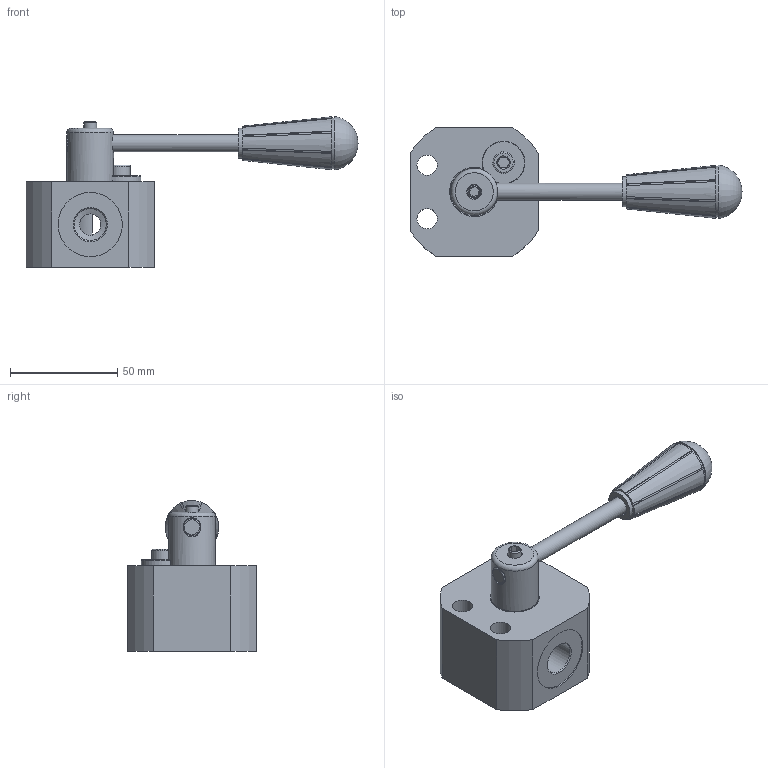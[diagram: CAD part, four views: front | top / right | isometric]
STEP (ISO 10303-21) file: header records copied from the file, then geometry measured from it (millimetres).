
FILE_DESCRIPTION(/* description */ ('Unknown'),/* implementation_level */ '2;1');
FILE_NAME(/* name */ 'DEVAP3V38CA',/* time_stamp */ '2024-12-05T10:41:51+01:00',/* author */ ('Unknown'),/* organization */ ('Unknown'),/* preprocessor_version */ 'ST-DEVELOPER v19.4',/* originating_system */ 'Solid Edge',/* authorisation */ 'Unknown');
FILE_SCHEMA (('AUTOMOTIVE_DESIGN {1 0 10303 214 3 1 1}'));
Length unit declared in the file: millimetre
Products named in the file (1): DEVAP3V38CA
Bounding box: 155.1 x 60 x 70.45 mm (x, y, z)
Volume: 147652.5 mm3; surface area: 28812.3 mm2
Topology: 1 solids, 1 shells, 135 faces, 332 edges, 214 vertices
Faces by surface type: plane 71, cylinder 33, cone 24, torus 7
Full cylindrical faces by diameter (mm): 6 x1, 8 x2, 9.5 x3, 10 x4, 14 x1, 14.95 x6, 20 x1, 21.8 x1, 22 x1, 30 x3
Entity records: 4616 total; most frequent: CARTESIAN_POINT 770, DIRECTION 598, ORIENTED_EDGE 522, EDGE_CURVE 261, AXIS2_PLACEMENT_3D 234, EDGE_LOOP 204, FACE_BOUND 204, VERTEX_POINT 189
